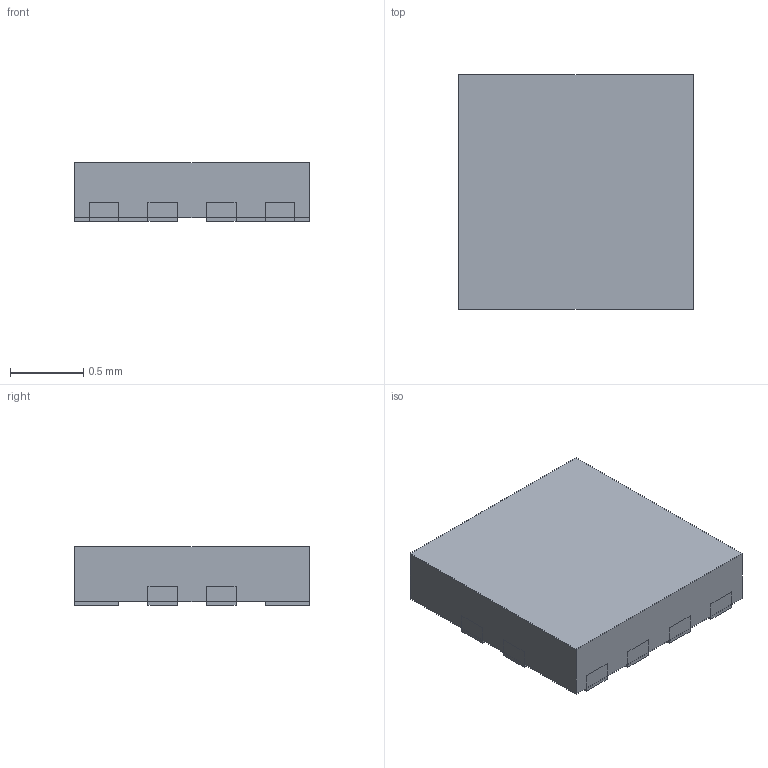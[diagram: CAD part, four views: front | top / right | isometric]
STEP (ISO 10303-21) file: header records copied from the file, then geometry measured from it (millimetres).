
FILE_DESCRIPTION(('FreeCAD Model'),'2;1');
FILE_NAME('Open CASCADE Shape Model','2026-11-12T17:17:04',('FreeCAD'),( 'FreeCAD'),'Open CASCADE STEP processor 7.8','FreeCAD','Unknown');
FILE_SCHEMA(('AUTOMOTIVE_DESIGN { 1 0 10303 214 1 1 1 1 }'));
Length unit declared in the file: millimetre
Products named in the file (1): Open CASCADE STEP translator 7.8 4
Bounding box: 1.6 x 1.6 x 0.4 mm (x, y, z)
Volume: 1.1 mm3; surface area: 11 mm2
Topology: 13 solids, 13 shells, 78 faces, 156 edges, 104 vertices
Faces by surface type: plane 78
Entity records: 1966 total; most frequent: CARTESIAN_POINT 339, DIRECTION 314, ORIENTED_EDGE 312, EDGE_CURVE 156, LINE 156, VECTOR 156, VERTEX_POINT 104, AXIS2_PLACEMENT_3D 79
